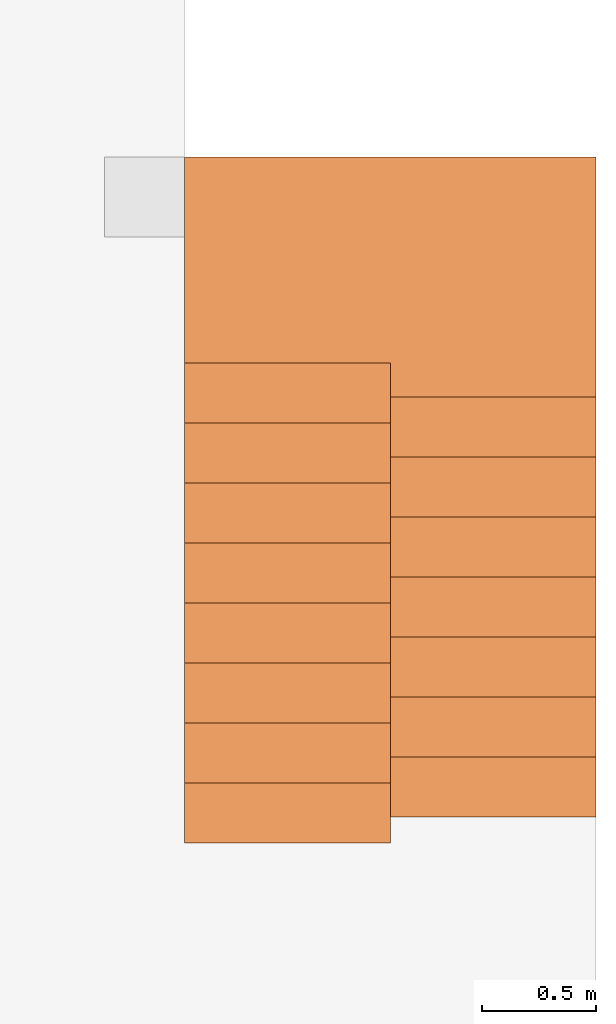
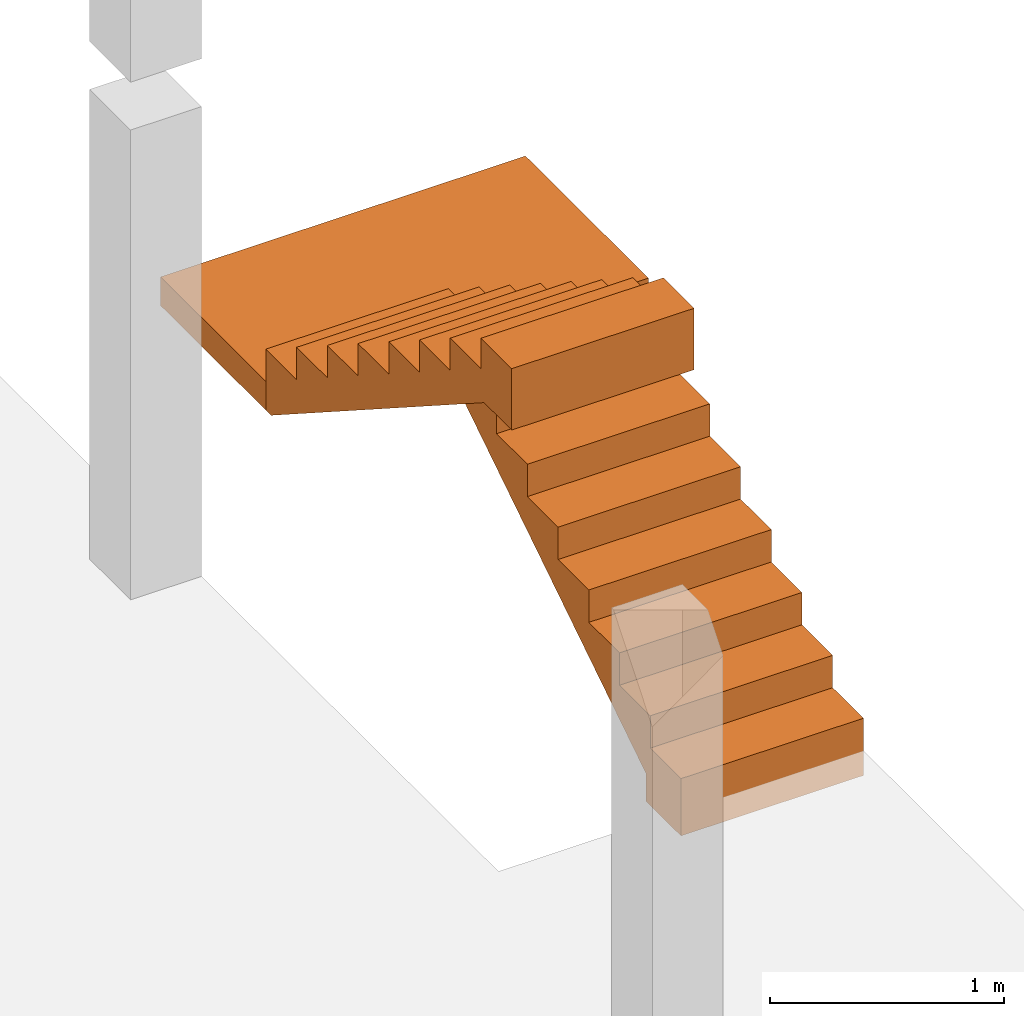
# One storey, part 2 of 2: 3 proxies, 1 element without a shape of its own.
"""IFC2X3 building model written with IfcOpenShell, lengths in metres."""

from ifc_helpers import new_model, entity, si_unit, converted_unit, money_unit, direction, frame, origin_with_axes, place, context, subcontext, project, spatial, faceted_brep, material, type_object, element, aggregate, save


model = new_model("IFC2X3")

# Units and contexts
model_context = context("Model", 3, precision=1e-05, world=origin_with_axes(), true_north=direction((0.0, 1.0)))
body_context = subcontext(model_context, "Body", "Model", "MODEL_VIEW")
ifc_project = project(units=[si_unit("LENGTHUNIT", "METRE"), si_unit("AREAUNIT", "SQUARE_METRE"), si_unit("VOLUMEUNIT", "CUBIC_METRE"), converted_unit("PLANEANGLEUNIT", "DEGREE", entity("IfcPlaneAngleMeasure", 0.0174532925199), si_unit("PLANEANGLEUNIT", "RADIAN"), dimensions=[0, 0, 0, 0, 0, 0, 0]), si_unit("SOLIDANGLEUNIT", "STERADIAN"), money_unit("EUR"), converted_unit("TIMEUNIT", "Year", entity("IfcTimeMeasure", 31556926.0), si_unit("TIMEUNIT", "SECOND"), dimensions=[0, 0, 0, 0, 0, 0, 0]), si_unit("MASSUNIT", "GRAM"), si_unit("THERMODYNAMICTEMPERATUREUNIT", "DEGREE_CELSIUS"), si_unit("LUMINOUSINTENSITYUNIT", "LUMEN")], contexts=[model_context])

# Site, building, storey
site_placement = place(None, origin_with_axes())
site = spatial("IfcSite", under=ifc_project, at=site_placement, Name="Site", CompositionType="ELEMENT")
building_placement = place(site_placement, origin_with_axes())
building = spatial("IfcBuilding", under=site, at=building_placement, Name="Bâtiment", CompositionType="ELEMENT")
storey_placement = place(building_placement, origin_with_axes())
storey = spatial("IfcBuildingStorey", under=building, at=storey_placement, Name="RdC", CompositionType="ELEMENT", Elevation=0.0)

# Proxies
building_element_proxy_type_1 = type_object("IfcBuildingElementProxyType", Name="Type d'escalier", PredefinedType="NOTDEFINED")
proxy_1_placement = place(storey_placement, frame((23.6960297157, 12.3070559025, 0.0), z_axis=(0.0, 0.0, 1.0), x_axis=(1.0, 0.0, 0.0)))
proxy_1 = element("IfcBuildingElementProxy", 1, at=proxy_1_placement, inside=storey, type_object=building_element_proxy_type_1, Name="ESC-001")
ifc_material = material(Name="GENERIQUE - STRUCTURE")
building_element_proxy_type_2 = type_object("IfcBuildingElementProxyType", Name="IfcBuildingElementProxy", PredefinedType="NOTDEFINED")
proxy_2_placement = place(proxy_1_placement, origin_with_axes())
proxy_2 = element("IfcBuildingElementProxy", 2, at=proxy_2_placement, type_object=building_element_proxy_type_2, material=ifc_material, Name="VOLEE-001", context=body_context, shape_type="Brep", body=[
    faceted_brep([(0.0, 1.8375, 1.18125), (-0.9, 1.8375, 1.18125), (-0.9, 1.575, 1.18125), (0.0, 1.575, 1.18125), (0.0, 1.8375, 1.2), (-0.9, 1.8375, 1.2), (-0.9, 1.8375, 1.00292874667), (-0.9, 1.79375, 0.974803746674), (-0.9, 1.75, 0.946678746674), (-0.9, 1.70625, 0.918553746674), (-0.9, 1.6625, 0.890428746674), (-0.9, 1.61875, 0.862303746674), (-0.9, 1.575, 0.834178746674), (-0.9, 1.53125, 0.806053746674), (-0.9, 1.4875, 0.777928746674), (-0.9, 1.44375, 0.749803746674), (-0.9, 1.4, 0.721678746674), (-0.9, 1.35625, 0.693553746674), (-0.9, 1.3125, 0.665428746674), (-0.9, 1.26875, 0.637303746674), (-0.9, 1.225, 0.609178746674), (-0.9, 1.18125, 0.581053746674), (-0.9, 1.1375, 0.552928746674), (-0.9, 1.09375, 0.524803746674), (-0.9, 1.05, 0.496678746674), (-0.9, 1.00625, 0.468553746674), (-0.9, 0.9625, 0.440428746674), (-0.9, 0.91875, 0.412303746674), (-0.9, 0.875, 0.384178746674), (-0.9, 0.83125, 0.356053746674), (-0.9, 0.7875, 0.327928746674), (-0.9, 0.74375, 0.299803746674), (-0.9, 0.7, 0.271678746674), (-0.9, 0.65625, 0.243553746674), (-0.9, 0.6125, 0.215428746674), (-0.9, 0.56875, 0.187303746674), (-0.9, 0.525, 0.159178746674), (-0.9, 0.48125, 0.131053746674), (-0.9, 0.4375, 0.102928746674), (-0.9, 0.39375, 0.074803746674), (-0.9, 0.35, 0.046678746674), (-0.9, 0.30625, 0.018553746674), (-0.9, 0.3, 0.0145358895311), (-0.9, 0.3, -0.13), (-0.9, 0.0, -0.13), (-0.9, 0.0, 0.16875), (-0.9, 0.2625, 0.16875), (-0.9, 0.2625, 0.3375), (-0.9, 0.525, 0.3375), (-0.9, 0.525, 0.50625), (-0.9, 0.7875, 0.50625), (-0.9, 0.7875, 0.675), (-0.9, 1.05, 0.675), (-0.9, 1.05, 0.84375), (-0.9, 1.3125, 0.84375), (-0.9, 1.3125, 1.0125), (-0.9, 1.575, 1.0125), (-0.9, 2.14405527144, 1.2), (0.0, 1.575, 1.0125), (0.0, 1.3125, 1.0125), (0.0, 1.3125, 0.84375), (0.0, 1.05, 0.84375), (0.0, 1.05, 0.675), (0.0, 0.7875, 0.675), (0.0, 0.7875, 0.50625), (0.0, 0.525, 0.50625), (0.0, 0.525, 0.3375), (0.0, 0.2625, 0.3375), (0.0, 0.2625, 0.16875), (0.0, 0.0, 0.16875), (0.0, 0.0, -0.13), (0.0, 0.3, -0.13), (0.0, 0.3, 0.0145358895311), (0.0, 0.30625, 0.018553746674), (0.0, 0.35, 0.046678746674), (0.0, 0.39375, 0.074803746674), (0.0, 0.4375, 0.102928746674), (0.0, 0.48125, 0.131053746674), (0.0, 0.525, 0.159178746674), (0.0, 0.56875, 0.187303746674), (0.0, 0.6125, 0.215428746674), (0.0, 0.65625, 0.243553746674), (0.0, 0.7, 0.271678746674), (0.0, 0.74375, 0.299803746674), (0.0, 0.7875, 0.327928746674), (0.0, 0.83125, 0.356053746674), (0.0, 0.875, 0.384178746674), (0.0, 0.91875, 0.412303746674), (0.0, 0.9625, 0.440428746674), (0.0, 1.00625, 0.468553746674), (0.0, 1.05, 0.496678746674), (0.0, 1.09375, 0.524803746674), (0.0, 1.1375, 0.552928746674), (0.0, 1.18125, 0.581053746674), (0.0, 1.225, 0.609178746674), (0.0, 1.26875, 0.637303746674), (0.0, 1.3125, 0.665428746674), (0.0, 1.35625, 0.693553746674), (0.0, 1.4, 0.721678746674), (0.0, 1.44375, 0.749803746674), (0.0, 1.4875, 0.777928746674), (0.0, 1.53125, 0.806053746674), (0.0, 1.575, 0.834178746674), (0.0, 1.61875, 0.862303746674), (0.0, 1.6625, 0.890428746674), (0.0, 1.70625, 0.918553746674), (0.0, 1.75, 0.946678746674), (0.0, 1.79375, 0.974803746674), (0.0, 1.8375, 1.00292874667), (0.0, 2.14405527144, 1.2), (-0.45, 1.75, 0.946678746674), (-0.45, 1.6625, 0.890428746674), (-0.45, 1.575, 0.834178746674), (-0.45, 1.4875, 0.777928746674), (-0.45, 1.4, 0.721678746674), (-0.45, 1.3125, 0.665428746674), (-0.45, 1.225, 0.609178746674), (-0.45, 1.1375, 0.552928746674), (-0.45, 1.05, 0.496678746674), (-0.45, 0.9625, 0.440428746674), (-0.45, 0.875, 0.384178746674), (-0.45, 0.7875, 0.327928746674), (-0.45, 0.7, 0.271678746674), (-0.45, 0.6125, 0.215428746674), (-0.45, 0.525, 0.159178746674), (-0.45, 0.4375, 0.102928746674), (-0.45, 0.35, 0.046678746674), (-0.835714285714, 0.3, 0.0145358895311), (-0.0642857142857, 0.3, 0.0145358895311)], [[[0, 1, 2, 3]], [[1, 0, 4, 5]], [[6, 7, 8, 9, 10, 11, 12, 13, 14, 15, 16, 17, 18, 19, 20, 21, 22, 23, 24, 25, 26, 27, 28, 29, 30, 31, 32, 33, 34, 35, 36, 37, 38, 39, 40, 41, 42, 43, 44, 45, 46, 47, 48, 49, 50, 51, 52, 53, 54, 55, 56, 2, 1, 5, 57]], [[58, 3, 2, 56]], [[0, 3, 58, 59, 60, 61, 62, 63, 64, 65, 66, 67, 68, 69, 70, 71, 72, 73, 74, 75, 76, 77, 78, 79, 80, 81, 82, 83, 84, 85, 86, 87, 88, 89, 90, 91, 92, 93, 94, 95, 96, 97, 98, 99, 100, 101, 102, 103, 104, 105, 106, 107, 108, 109, 4]], [[109, 57, 5, 4]], [[108, 107, 110, 7, 6, 57, 109]], [[7, 110, 8]], [[8, 110, 9]], [[9, 111, 10]], [[10, 111, 11]], [[11, 112, 12]], [[12, 112, 13]], [[13, 113, 14]], [[14, 113, 15]], [[15, 114, 16]], [[16, 114, 17]], [[17, 115, 18]], [[18, 115, 19]], [[19, 116, 20]], [[20, 116, 21]], [[21, 117, 22]], [[22, 117, 23]], [[23, 118, 24]], [[24, 118, 25]], [[25, 119, 26]], [[26, 119, 27]], [[27, 120, 28]], [[28, 120, 29]], [[29, 121, 30]], [[30, 121, 31]], [[31, 122, 32]], [[32, 122, 33]], [[33, 123, 34]], [[34, 123, 35]], [[35, 124, 36]], [[36, 124, 37]], [[37, 125, 38]], [[38, 125, 39]], [[39, 126, 40]], [[40, 126, 41]], [[41, 127, 42]], [[127, 128, 72, 71, 43, 42]], [[71, 70, 44, 43]], [[69, 45, 44, 70]], [[46, 45, 69, 68]], [[68, 67, 47, 46]], [[48, 47, 67, 66]], [[66, 65, 49, 48]], [[50, 49, 65, 64]], [[64, 63, 51, 50]], [[52, 51, 63, 62]], [[62, 61, 53, 52]], [[54, 53, 61, 60]], [[60, 59, 55, 54]], [[56, 55, 59, 58]], [[73, 72, 128]], [[73, 126, 74]], [[74, 126, 75]], [[75, 125, 76]], [[76, 125, 77]], [[77, 124, 78]], [[78, 124, 79]], [[79, 123, 80]], [[80, 123, 81]], [[81, 122, 82]], [[82, 122, 83]], [[83, 121, 84]], [[84, 121, 85]], [[85, 120, 86]], [[86, 120, 87]], [[87, 119, 88]], [[88, 119, 89]], [[89, 118, 90]], [[90, 118, 91]], [[91, 117, 92]], [[92, 117, 93]], [[93, 116, 94]], [[94, 116, 95]], [[95, 115, 96]], [[96, 115, 97]], [[97, 114, 98]], [[98, 114, 99]], [[99, 113, 100]], [[100, 113, 101]], [[101, 112, 102]], [[102, 112, 103]], [[103, 111, 104]], [[104, 111, 105]], [[105, 110, 106]], [[106, 110, 107]], [[9, 110, 105, 111]], [[112, 11, 111, 103]], [[13, 112, 101, 113]], [[15, 113, 99, 114]], [[17, 114, 97, 115]], [[19, 115, 95, 116]], [[117, 21, 116, 93]], [[23, 117, 91, 118]], [[25, 118, 89, 119]], [[27, 119, 87, 120]], [[121, 29, 120, 85]], [[31, 121, 83, 122]], [[123, 33, 122, 81]], [[35, 123, 79, 124]], [[125, 37, 124, 77]], [[126, 39, 125, 75]], [[73, 128, 127, 41, 126]]]),
])
proxy_3_placement = place(proxy_1_placement, origin_with_axes())
proxy_3 = element("IfcBuildingElementProxy", 3, at=proxy_3_placement, type_object=building_element_proxy_type_2, material=ifc_material, Name="PALIER-001", context=body_context, shape_type="Brep", body=[
    faceted_brep([(-0.9, 1.8375, 1.2), (0.0, 1.8375, 1.2), (0.0, 1.8375, 1.35), (-0.9, 1.8375, 1.35), (-0.9, 1.9875, 1.2), (-1.8, 1.9875, 1.2), (-1.8, 2.8875, 1.2), (0.0, 2.8875, 1.2), (0.0, 2.8875, 1.35), (-1.8, 2.8875, 1.35), (-1.8, 1.9875, 1.35), (-0.9, 1.9875, 1.35)], [[[0, 1, 2, 3]], [[0, 4, 5, 6, 7, 1]], [[1, 7, 8, 2]], [[3, 2, 8, 9, 10, 11]], [[4, 0, 3, 11]], [[5, 4, 11, 10]], [[6, 5, 10, 9]], [[7, 6, 9, 8]]]),
])
proxy_4_placement = place(proxy_1_placement, origin_with_axes())
proxy_4 = element("IfcBuildingElementProxy", 4, at=proxy_4_placement, type_object=building_element_proxy_type_2, material=ifc_material, Name="VOLEE-002", context=body_context, shape_type="Brep", body=[
    faceted_brep([(-1.8, -0.1125, 2.69), (-1.8, -0.1125, 2.52167874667), (-0.9, -0.1125, 2.52167874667), (-0.9, -0.1125, 2.69), (-1.8, -0.1125, 2.37), (-1.8, 0.15, 2.69), (-1.8, 0.15, 2.53125), (-1.8, 0.4125, 2.53125), (-1.8, 0.4125, 2.3625), (-1.8, 0.675, 2.3625), (-1.8, 0.675, 2.19375), (-1.8, 0.9375, 2.19375), (-1.8, 0.9375, 2.025), (-1.8, 1.2, 2.025), (-1.8, 1.2, 1.85625), (-1.8, 1.4625, 1.85625), (-1.8, 1.4625, 1.6875), (-1.8, 1.725, 1.6875), (-1.8, 1.725, 1.51875), (-1.8, 1.9875, 1.51875), (-1.8, 1.9875, 1.2), (-1.8, 1.94344471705, 1.2), (-1.8, 1.9, 1.22792874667), (-1.8, 1.85625, 1.25605374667), (-1.8, 1.8125, 1.28417874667), (-1.8, 1.76875, 1.31230374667), (-1.8, 1.725, 1.34042874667), (-1.8, 1.68125, 1.36855374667), (-1.8, 1.6375, 1.39667874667), (-1.8, 1.59375, 1.42480374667), (-1.8, 1.55, 1.45292874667), (-1.8, 1.50625, 1.48105374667), (-1.8, 1.4625, 1.50917874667), (-1.8, 1.41875, 1.53730374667), (-1.8, 1.375, 1.56542874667), (-1.8, 1.33125, 1.59355374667), (-1.8, 1.2875, 1.62167874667), (-1.8, 1.24375, 1.64980374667), (-1.8, 1.2, 1.67792874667), (-1.8, 1.15625, 1.70605374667), (-1.8, 1.1125, 1.73417874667), (-1.8, 1.06875, 1.76230374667), (-1.8, 1.025, 1.79042874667), (-1.8, 0.98125, 1.81855374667), (-1.8, 0.9375, 1.84667874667), (-1.8, 0.89375, 1.87480374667), (-1.8, 0.85, 1.90292874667), (-1.8, 0.80625, 1.93105374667), (-1.8, 0.7625, 1.95917874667), (-1.8, 0.71875, 1.98730374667), (-1.8, 0.675, 2.01542874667), (-1.8, 0.63125, 2.04355374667), (-1.8, 0.5875, 2.07167874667), (-1.8, 0.54375, 2.09980374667), (-1.8, 0.5, 2.12792874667), (-1.8, 0.45625, 2.15605374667), (-1.8, 0.4125, 2.18417874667), (-1.8, 0.36875, 2.21230374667), (-1.8, 0.325, 2.24042874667), (-1.8, 0.28125, 2.26855374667), (-1.8, 0.2375, 2.29667874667), (-1.8, 0.19375, 2.32480374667), (-1.8, 0.15, 2.35292874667), (-1.8, 0.123444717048, 2.37), (-0.9, -0.1125, 2.37), (-0.9, 0.123444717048, 2.37), (-0.9, 0.15, 2.35292874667), (-0.9, 0.19375, 2.32480374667), (-0.9, 0.2375, 2.29667874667), (-0.9, 0.28125, 2.26855374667), (-0.9, 0.325, 2.24042874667), (-0.9, 0.36875, 2.21230374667), (-0.9, 0.4125, 2.18417874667), (-0.9, 0.45625, 2.15605374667), (-0.9, 0.5, 2.12792874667), (-0.9, 0.54375, 2.09980374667), (-0.9, 0.5875, 2.07167874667), (-0.9, 0.63125, 2.04355374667), (-0.9, 0.675, 2.01542874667), (-0.9, 0.71875, 1.98730374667), (-0.9, 0.7625, 1.95917874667), (-0.9, 0.80625, 1.93105374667), (-0.9, 0.85, 1.90292874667), (-0.9, 0.89375, 1.87480374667), (-0.9, 0.9375, 1.84667874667), (-0.9, 0.98125, 1.81855374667), (-0.9, 1.025, 1.79042874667), (-0.9, 1.06875, 1.76230374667), (-0.9, 1.1125, 1.73417874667), (-0.9, 1.15625, 1.70605374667), (-0.9, 1.2, 1.67792874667), (-0.9, 1.24375, 1.64980374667), (-0.9, 1.2875, 1.62167874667), (-0.9, 1.33125, 1.59355374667), (-0.9, 1.375, 1.56542874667), (-0.9, 1.41875, 1.53730374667), (-0.9, 1.4625, 1.50917874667), (-0.9, 1.50625, 1.48105374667), (-0.9, 1.55, 1.45292874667), (-0.9, 1.59375, 1.42480374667), (-0.9, 1.6375, 1.39667874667), (-0.9, 1.68125, 1.36855374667), (-0.9, 1.725, 1.34042874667), (-0.9, 1.76875, 1.31230374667), (-0.9, 1.8125, 1.28417874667), (-0.9, 1.85625, 1.25605374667), (-0.9, 1.9, 1.22792874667), (-0.9, 1.94344471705, 1.2), (-0.9, 1.9875, 1.2), (-0.9, 1.9875, 1.51875), (-0.9, 1.725, 1.51875), (-0.9, 1.725, 1.6875), (-0.9, 1.4625, 1.6875), (-0.9, 1.4625, 1.85625), (-0.9, 1.2, 1.85625), (-0.9, 1.2, 2.025), (-0.9, 0.9375, 2.025), (-0.9, 0.9375, 2.19375), (-0.9, 0.675, 2.19375), (-0.9, 0.675, 2.3625), (-0.9, 0.4125, 2.3625), (-0.9, 0.4125, 2.53125), (-0.9, 0.15, 2.53125), (-0.9, 0.15, 2.69), (-0.903140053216, 1.94344471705, 1.2), (-1.79685994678, 1.94344471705, 1.2), (-1.35, 1.9, 1.22792874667), (-1.35, 1.8125, 1.28417874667), (-1.35, 1.725, 1.34042874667), (-1.35, 1.6375, 1.39667874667), (-1.35, 1.55, 1.45292874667), (-1.35, 1.4625, 1.50917874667), (-1.35, 1.375, 1.56542874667), (-1.35, 1.2875, 1.62167874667), (-1.35, 1.2, 1.67792874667), (-1.35, 1.1125, 1.73417874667), (-1.35, 1.025, 1.79042874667), (-1.35, 0.9375, 1.84667874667), (-1.35, 0.85, 1.90292874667), (-1.35, 0.7625, 1.95917874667), (-1.35, 0.675, 2.01542874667), (-1.35, 0.5875, 2.07167874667), (-1.35, 0.5, 2.12792874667), (-1.35, 0.4125, 2.18417874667), (-1.35, 0.325, 2.24042874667), (-1.35, 0.2375, 2.29667874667), (-1.35, 0.15, 2.35292874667), (-1.62314005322, 0.123444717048, 2.37), (-1.07685994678, 0.123444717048, 2.37)], [[[0, 1, 2, 3]], [[4, 1, 0, 5, 6, 7, 8, 9, 10, 11, 12, 13, 14, 15, 16, 17, 18, 19, 20, 21, 22, 23, 24, 25, 26, 27, 28, 29, 30, 31, 32, 33, 34, 35, 36, 37, 38, 39, 40, 41, 42, 43, 44, 45, 46, 47, 48, 49, 50, 51, 52, 53, 54, 55, 56, 57, 58, 59, 60, 61, 62, 63]], [[64, 2, 1, 4]], [[64, 65, 66, 67, 68, 69, 70, 71, 72, 73, 74, 75, 76, 77, 78, 79, 80, 81, 82, 83, 84, 85, 86, 87, 88, 89, 90, 91, 92, 93, 94, 95, 96, 97, 98, 99, 100, 101, 102, 103, 104, 105, 106, 107, 108, 109, 110, 111, 112, 113, 114, 115, 116, 117, 118, 119, 120, 121, 122, 123, 3, 2]], [[3, 123, 5, 0]], [[6, 5, 123, 122]], [[122, 121, 7, 6]], [[8, 7, 121, 120]], [[120, 119, 9, 8]], [[10, 9, 119, 118]], [[118, 117, 11, 10]], [[12, 11, 117, 116]], [[116, 115, 13, 12]], [[14, 13, 115, 114]], [[114, 113, 15, 14]], [[16, 15, 113, 112]], [[112, 111, 17, 16]], [[18, 17, 111, 110]], [[110, 109, 19, 18]], [[109, 108, 20, 19]], [[21, 20, 108, 107, 124, 125]], [[125, 126, 22, 21]], [[22, 126, 23]], [[23, 127, 24]], [[24, 127, 25]], [[25, 128, 26]], [[26, 128, 27]], [[27, 129, 28]], [[28, 129, 29]], [[29, 130, 30]], [[30, 130, 31]], [[31, 131, 32]], [[32, 131, 33]], [[33, 132, 34]], [[34, 132, 35]], [[35, 133, 36]], [[36, 133, 37]], [[37, 134, 38]], [[38, 134, 39]], [[39, 135, 40]], [[40, 135, 41]], [[41, 136, 42]], [[42, 136, 43]], [[43, 137, 44]], [[44, 137, 45]], [[45, 138, 46]], [[46, 138, 47]], [[47, 139, 48]], [[48, 139, 49]], [[49, 140, 50]], [[50, 140, 51]], [[51, 141, 52]], [[52, 141, 53]], [[53, 142, 54]], [[54, 142, 55]], [[55, 143, 56]], [[56, 143, 57]], [[57, 144, 58]], [[58, 144, 59]], [[59, 145, 60]], [[60, 145, 61]], [[61, 146, 62]], [[146, 147, 63, 62]], [[147, 148, 65, 64, 4, 63]], [[66, 65, 148, 146]], [[66, 146, 67]], [[67, 145, 68]], [[68, 145, 69]], [[69, 144, 70]], [[70, 144, 71]], [[71, 143, 72]], [[72, 143, 73]], [[73, 142, 74]], [[74, 142, 75]], [[75, 141, 76]], [[76, 141, 77]], [[77, 140, 78]], [[78, 140, 79]], [[79, 139, 80]], [[80, 139, 81]], [[81, 138, 82]], [[82, 138, 83]], [[83, 137, 84]], [[84, 137, 85]], [[85, 136, 86]], [[86, 136, 87]], [[87, 135, 88]], [[88, 135, 89]], [[89, 134, 90]], [[90, 134, 91]], [[91, 133, 92]], [[92, 133, 93]], [[93, 132, 94]], [[94, 132, 95]], [[95, 131, 96]], [[96, 131, 97]], [[97, 130, 98]], [[98, 130, 99]], [[99, 129, 100]], [[100, 129, 101]], [[101, 128, 102]], [[102, 128, 103]], [[103, 127, 104]], [[104, 127, 105]], [[105, 126, 106]], [[126, 124, 107, 106]], [[126, 125, 124]], [[127, 23, 126, 105]], [[25, 127, 103, 128]], [[129, 27, 128, 101]], [[130, 29, 129, 99]], [[31, 130, 97, 131]], [[33, 131, 95, 132]], [[133, 35, 132, 93]], [[134, 37, 133, 91]], [[135, 39, 134, 89]], [[136, 41, 135, 87]], [[137, 43, 136, 85]], [[138, 45, 137, 83]], [[139, 47, 138, 81]], [[140, 49, 139, 79]], [[141, 51, 140, 77]], [[53, 141, 75, 142]], [[143, 55, 142, 73]], [[144, 57, 143, 71]], [[145, 59, 144, 69]], [[146, 61, 145, 67]], [[146, 148, 147]]]),
])
aggregate(proxy_1, [proxy_2, proxy_3, proxy_4])

save(model, "model.ifc")
